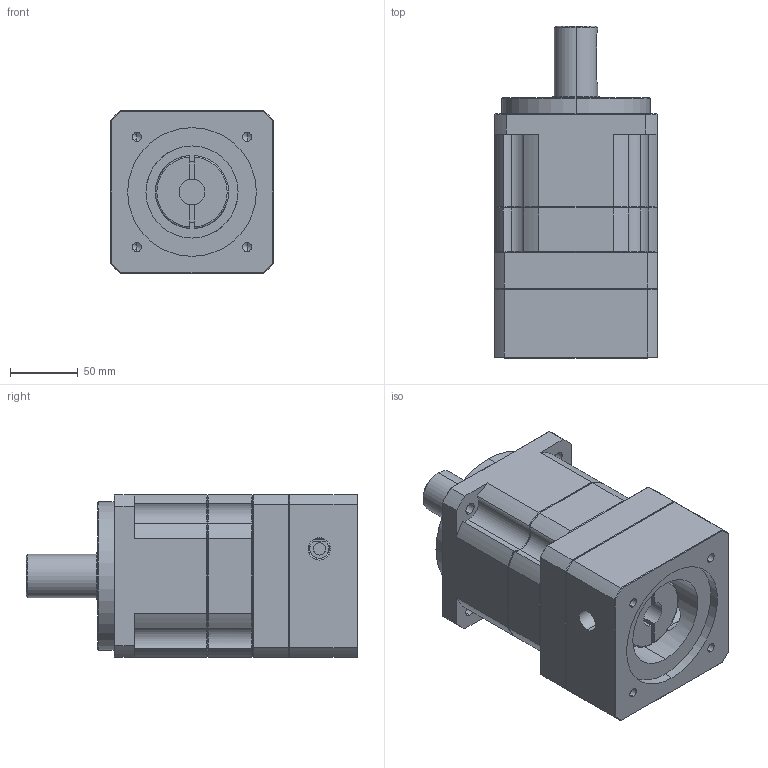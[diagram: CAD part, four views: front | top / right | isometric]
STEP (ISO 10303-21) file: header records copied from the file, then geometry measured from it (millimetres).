
FILE_DESCRIPTION (( 'STEP AP203' ), '1' );
FILE_NAME ('MF120H-L2£r95PCD£r115M8.STEP', '2014-04-21T05:49:37', ( 'KELLY' ), ( '' ), 'SwSTEP 2.0', 'SolidWorks 2012', '' );
FILE_SCHEMA (( 'CONFIG_CONTROL_DESIGN' ));
Length unit declared in the file: millimetre
Products named in the file (1): MF120H-L2｣r95PCD｣r115M8
Bounding box: 120 x 245.2 x 120 mm (x, y, z)
Volume: 2329730.5 mm3; surface area: 205393.2 mm2
Topology: 3 solids, 3 shells, 249 faces, 588 edges, 349 vertices
Faces by surface type: cylinder 90, plane 79, cone 76, torus 4
Entity records: 7707 total; most frequent: CARTESIAN_POINT 1967, DIRECTION 1214, ORIENTED_EDGE 1156, EDGE_CURVE 578, AXIS2_PLACEMENT_3D 494, VERTEX_POINT 349, EDGE_LOOP 281, FACE_OUTER_BOUND 249
